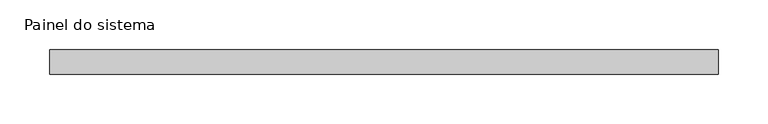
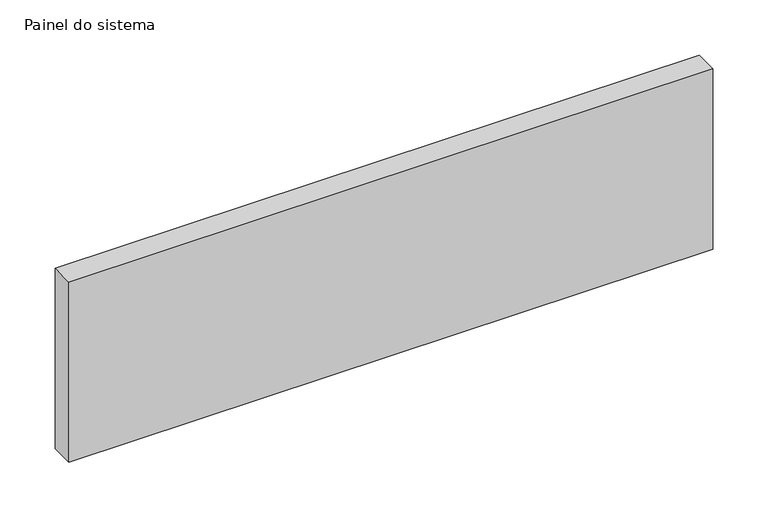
"""IFC4 building model written with IfcOpenShell, lengths in millimetres: plate geometry, Painel do sistema : Envidraçado."""

from ifc_helpers import new_model, si_unit, origin, origin_with_axes, place, context, project, spatial, polyline, outline, extrude, source, transform, mapped, element, save


def painel_do_sistema_f94ef899(model_context):
    return source(origin(), model_context, "Body", "SweptSolid", [
        extrude(outline(polyline([(337.5, 24.5), (-337.5, 24.5), (-337.5, 49.5), (337.5, 49.5), (337.5, 24.5)])), origin_with_axes(), (0.0, 0.0, 1.0), 199.8945406),
    ])


if __name__ == "__main__":
    model = new_model("IFC4")
    model_context = context("Model", 3, world=origin())
    ifc_project = project(units=[si_unit("LENGTHUNIT", "METRE", prefix="MILLI")], contexts=[model_context])
    site = spatial("IfcSite", under=ifc_project)
    building = spatial("IfcBuilding", under=site)
    placement = place(None, origin())
    painel_do_sistema_shape = painel_do_sistema_f94ef899(model_context)
    element("IfcPlate", 1, ObjectType="Painel do sistema : Envidraçado", at=placement, inside=building, context=model_context, shape_type="MappedRepresentation", body=[
        mapped(painel_do_sistema_shape, transform((0.0, 0.0, 0.0), x_axis=(1.0, 0.0, 0.0), y_axis=(0.0, 1.0, 0.0), z_axis=(0.0, 0.0, 1.0))),
    ])
    save(model, "model.ifc")
